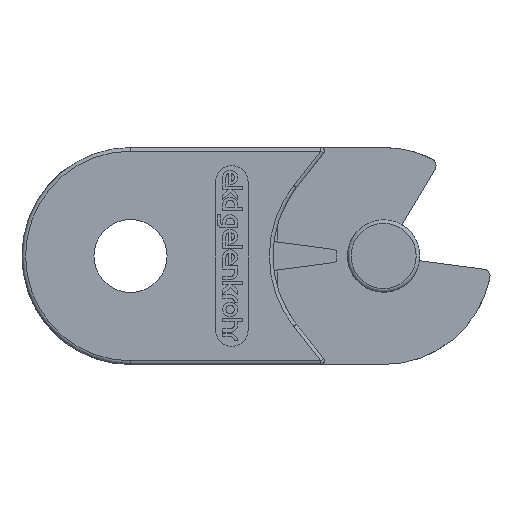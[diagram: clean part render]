
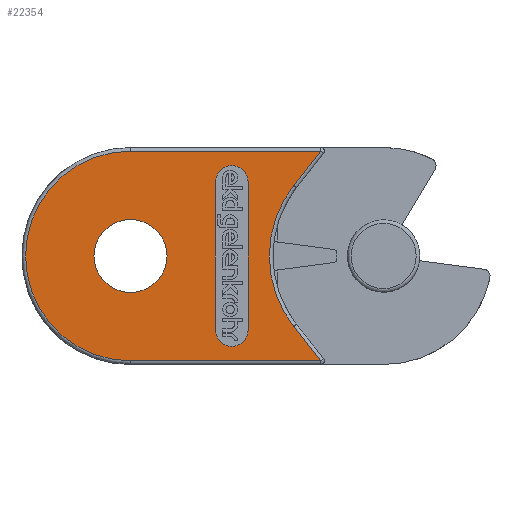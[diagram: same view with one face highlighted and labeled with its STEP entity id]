
A CAD part, left-side view. The second image highlights one B-rep face of the part: STEP entity #22354.
In plain terms, the highlighted planar face has unit normal (-1, 0, 0) as drawn and (1, 0, 0) by its records, which use the part's own axes.
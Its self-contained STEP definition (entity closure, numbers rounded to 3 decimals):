
#3028=CARTESIAN_POINT('',(50.,-8.393,29.5));
#3029=VERTEX_POINT('',#3028);
#3083=CARTESIAN_POINT('',(50.,-8.393,0.5));
#3084=VERTEX_POINT('',#3083);
#3128=CARTESIAN_POINT('',(50.,-4.668,24.751));
#3129=VERTEX_POINT('',#3128);
#3137=CARTESIAN_POINT('',(50.,-4.668,24.751));
#3138=DIRECTION('',(0.0,-0.617,0.787));
#3139=VECTOR('',#3138,6.035);
#3140=LINE('',#3137,#3139);
#3141=EDGE_CURVE('',#3129,#3029,#3140,.T.);
#3177=CARTESIAN_POINT('',(50.,-4.668,5.249));
#3178=VERTEX_POINT('',#3177);
#3186=CARTESIAN_POINT('',(50.,-17.1,15.));
#3187=DIRECTION('',(1.0,0.,0.));
#3188=DIRECTION('',(0.,1.,0.));
#3189=AXIS2_PLACEMENT_3D('',#3186,#3187,#3188);
#3190=CIRCLE('',#3189,15.8);
#3191=EDGE_CURVE('',#3178,#3129,#3190,.T.);
#3224=CARTESIAN_POINT('',(50.,-8.393,0.5));
#3225=DIRECTION('',(0.,0.617,0.787));
#3226=VECTOR('',#3225,6.035);
#3227=LINE('',#3224,#3226);
#3228=EDGE_CURVE('',#3084,#3178,#3227,.T.);
#10456=CARTESIAN_POINT('',(50.,12.85,15.));
#10457=VERTEX_POINT('',#10456);
#10458=CARTESIAN_POINT('',(50.,17.9,15.));
#10459=DIRECTION('',(-1.0,0.0,0.0));
#10460=DIRECTION('',(0.0,1.0,0.0));
#10461=AXIS2_PLACEMENT_3D('',#10458,#10459,#10460);
#10462=CIRCLE('',#10461,5.05);
#10463=EDGE_CURVE('',#10457,#10457,#10462,.T.);
#10991=CARTESIAN_POINT('',(50.,17.9,0.5));
#10992=VERTEX_POINT('',#10991);
#11000=CARTESIAN_POINT('',(50.,17.9,0.5));
#11001=DIRECTION('',(0.0,-1.0,0.0));
#11002=VECTOR('',#11001,26.293);
#11003=LINE('',#11000,#11002);
#11004=EDGE_CURVE('',#10992,#3084,#11003,.T.);
#11016=CARTESIAN_POINT('',(50.,17.9,29.5));
#11017=VERTEX_POINT('',#11016);
#11018=CARTESIAN_POINT('',(50.,17.9,15.));
#11019=DIRECTION('',(-1.0,0.0,0.0));
#11020=DIRECTION('',(0.0,1.0,0.0));
#11021=AXIS2_PLACEMENT_3D('',#11018,#11019,#11020);
#11022=CIRCLE('',#11021,14.5);
#11023=EDGE_CURVE('',#11017,#10992,#11022,.T.);
#11051=CARTESIAN_POINT('',(50.,-8.393,29.5));
#11052=DIRECTION('',(0.0,1.0,0.0));
#11053=VECTOR('',#11052,26.293);
#11054=LINE('',#11051,#11053);
#11055=EDGE_CURVE('',#3029,#11017,#11054,.T.);
#12038=CARTESIAN_POINT('',(50.,6.147,4.75));
#12039=VERTEX_POINT('',#12038);
#12040=CARTESIAN_POINT('',(50.,1.647,4.75));
#12041=VERTEX_POINT('',#12040);
#12042=CARTESIAN_POINT('',(50.,3.897,4.75));
#12043=DIRECTION('',(-1.0,0.0,0.0));
#12044=DIRECTION('',(0.0,0.0,1.0));
#12045=AXIS2_PLACEMENT_3D('',#12042,#12043,#12044);
#12046=CIRCLE('',#12045,2.25);
#12047=EDGE_CURVE('',#12039,#12041,#12046,.T.);
#12091=CARTESIAN_POINT('',(50.,6.147,25.25));
#12092=VERTEX_POINT('',#12091);
#12099=CARTESIAN_POINT('',(50.,1.647,25.25));
#12100=VERTEX_POINT('',#12099);
#12101=CARTESIAN_POINT('',(50.,3.897,25.25));
#12102=DIRECTION('',(-1.0,0.0,0.0));
#12103=DIRECTION('',(0.0,0.0,1.0));
#12104=AXIS2_PLACEMENT_3D('',#12101,#12102,#12103);
#12105=CIRCLE('',#12104,2.25);
#12106=EDGE_CURVE('',#12100,#12092,#12105,.T.);
#21348=CARTESIAN_POINT('',(50.,1.647,4.75));
#21349=DIRECTION('',(0.0,0.0,1.0));
#21350=VECTOR('',#21349,20.5);
#21351=LINE('',#21348,#21350);
#21352=EDGE_CURVE('',#12041,#12100,#21351,.T.);
#21370=CARTESIAN_POINT('',(50.,6.147,25.25));
#21371=DIRECTION('',(0.0,0.0,-1.0));
#21372=VECTOR('',#21371,20.5);
#21373=LINE('',#21370,#21372);
#21374=EDGE_CURVE('',#12092,#12039,#21373,.T.);
#22332=CARTESIAN_POINT('',(50.,0.189,15.));
#22333=DIRECTION('',(1.0,0.0,0.0));
#22334=DIRECTION('',(0.0,-1.0,0.0));
#22335=AXIS2_PLACEMENT_3D('',#22332,#22333,#22334);
#22336=PLANE('',#22335);
#22337=ORIENTED_EDGE('',*,*,#11055,.F.);
#22338=ORIENTED_EDGE('',*,*,#3141,.F.);
#22339=ORIENTED_EDGE('',*,*,#3191,.F.);
#22340=ORIENTED_EDGE('',*,*,#3228,.F.);
#22341=ORIENTED_EDGE('',*,*,#11004,.F.);
#22342=ORIENTED_EDGE('',*,*,#11023,.F.);
#22343=EDGE_LOOP('',(#22337,#22338,#22339,#22340,#22341,#22342));
#22344=FACE_OUTER_BOUND('',#22343,.T.);
#22345=ORIENTED_EDGE('',*,*,#12106,.T.);
#22346=ORIENTED_EDGE('',*,*,#21374,.T.);
#22347=ORIENTED_EDGE('',*,*,#12047,.T.);
#22348=ORIENTED_EDGE('',*,*,#21352,.T.);
#22349=EDGE_LOOP('',(#22345,#22346,#22347,#22348));
#22350=FACE_BOUND('',#22349,.T.);
#22351=ORIENTED_EDGE('',*,*,#10463,.T.);
#22352=EDGE_LOOP('',(#22351));
#22353=FACE_BOUND('',#22352,.T.);
#22354=ADVANCED_FACE('',(#22344,#22350,#22353),#22336,.T.);
